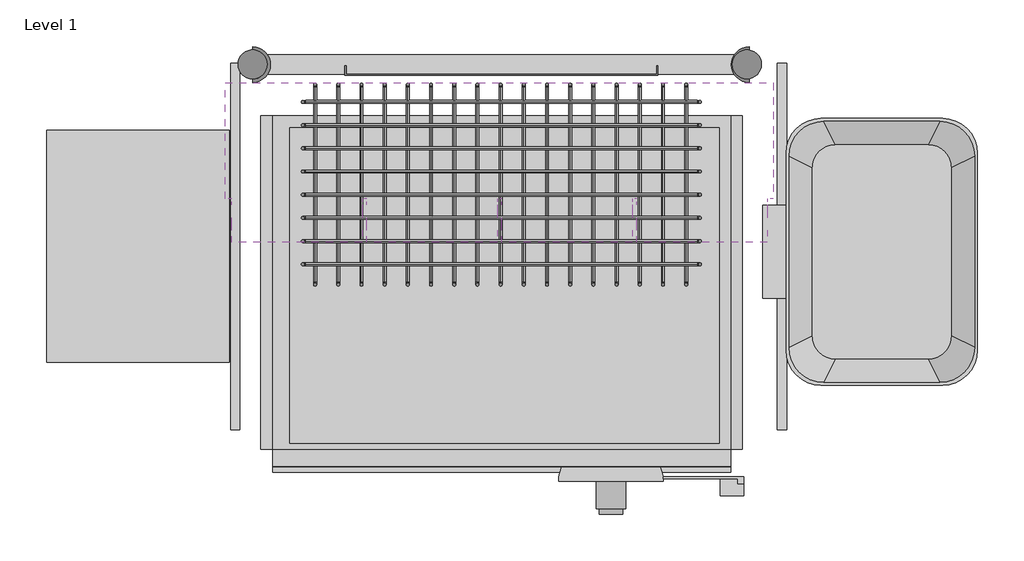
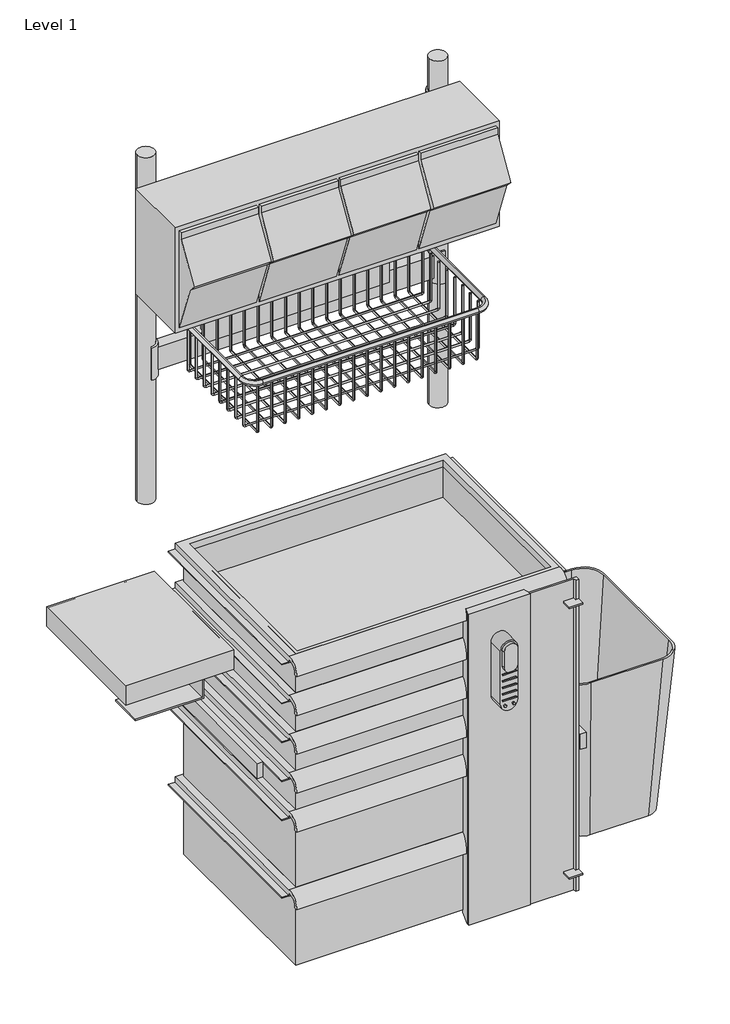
# One storey, incomplete: 15 furniture elements.
"""IFC4 building model written with IfcOpenShell, lengths in millimetres."""

from ifc_helpers import new_model, si_unit, origin, place, context, project, spatial, transform, mapped, element, save
from components import furniture_30494bcf, furniture_4b96bb6f, furniture_5a4074e1, furniture_97bd5955, furniture_3da6129d, furniture_a87b4830, furniture_cac80d98, furniture_5af42f3c, furniture_57f02d6f, furniture_1b205687, furniture_bacf119b, furniture_412fb93b, furniture_ef8da2bd, furniture_4709d153, furniture_0130290e, furniture_7420d28c, furniture_755c3ff9, furniture_5e9628dd

model = new_model("IFC4")

# Units and contexts
model_context = context("Model", 3, world=origin())
ifc_project = project(units=[si_unit("LENGTHUNIT", "METRE", prefix="MILLI")], contexts=[model_context])

# Site, building, storey
site = spatial("IfcSite", under=ifc_project)
building = spatial("IfcBuilding", under=site)
storey = spatial("IfcBuildingStorey", under=building, Name="Level 1", Elevation=0.0)

# Furniture
placement = place(None, origin())
furniture_shape = furniture_30494bcf(model_context)
element("IfcFurniture", 1, ObjectType="HermanMiller_Carts_CT501_Drawer : 3\"H x 15\"D x 20\"W", at=placement, inside=storey, context=model_context, shape_type="MappedRepresentation", body=[
    mapped(furniture_shape, transform((351.7362512, -345.5214727, 0.0), x_axis=(1.0, 0.0, 0.0), y_axis=(0.0, 1.0, 0.0), z_axis=(0.0, 0.0, 1.0))),
])
furniture_2_shape = furniture_4b96bb6f(model_context)
element("IfcFurniture", 2, ObjectType="HermanMiller_Carts_CT501_Drawer : 3\"H x 15\"D x 20\"W", at=placement, inside=storey, context=model_context, shape_type="MappedRepresentation", body=[
    mapped(furniture_2_shape, transform((351.7362512, -345.5214727, 0.0), x_axis=(1.0, 0.0, 0.0), y_axis=(0.0, 1.0, 0.0), z_axis=(0.0, 0.0, 1.0))),
])
furniture_3_shape = furniture_5a4074e1(model_context)
element("IfcFurniture", 3, ObjectType="HermanMiller_Carts_CT501_Drawer : 3\"H x 15\"D x 20\"W", at=placement, inside=storey, context=model_context, shape_type="MappedRepresentation", body=[
    mapped(furniture_3_shape, transform((351.7362512, -345.5214727, 0.0), x_axis=(1.0, 0.0, 0.0), y_axis=(0.0, 1.0, 0.0), z_axis=(0.0, 0.0, 1.0))),
])
furniture_4_shape = furniture_97bd5955(model_context)
element("IfcFurniture", 4, ObjectType="HermanMiller_Carts_CT501_Drawer : 3\"H x 15\"D x 20\"W", at=placement, inside=storey, context=model_context, shape_type="MappedRepresentation", body=[
    mapped(furniture_4_shape, transform((351.7362512, -345.5214727, 0.0), x_axis=(1.0, 0.0, 0.0), y_axis=(0.0, 1.0, 0.0), z_axis=(0.0, 0.0, 1.0))),
])
furniture_5_shape = furniture_3da6129d(model_context)
element("IfcFurniture", 5, ObjectType="HermanMiller_Carts_CT501_Drawer : 6\"H x 15\"D x 20\"W", at=placement, inside=storey, context=model_context, shape_type="MappedRepresentation", body=[
    mapped(furniture_5_shape, transform((351.7362512, -345.5214727, 0.0), x_axis=(1.0, 0.0, 0.0), y_axis=(0.0, 1.0, 0.0), z_axis=(0.0, 0.0, 1.0))),
])
furniture_6_shape = furniture_a87b4830(model_context)
element("IfcFurniture", 6, ObjectType="HermanMiller_Carts_CT501_Drawer : 6\"H x 15\"D x 20\"W", at=placement, inside=storey, context=model_context, shape_type="MappedRepresentation", body=[
    mapped(furniture_6_shape, transform((351.7362512, -345.5214727, 0.0), x_axis=(1.0, 0.0, 0.0), y_axis=(0.0, 1.0, 0.0), z_axis=(0.0, 0.0, 1.0))),
])
furniture_7_shape = furniture_cac80d98(model_context)
furniture_8_shape = furniture_5af42f3c(model_context)
furniture_9_shape = furniture_57f02d6f(model_context)
furniture_10_shape = furniture_1b205687(model_context)
element("IfcFurniture", 7, ObjectType="HermanMiller_Carts_CT720_SupplyBasket : 5\"H x 9\"D x 18\"W Supply Basket", at=placement, inside=storey, context=model_context, shape_type="MappedRepresentation", body=[
    mapped(furniture_7_shape, transform((364.4834911, -184.4641203, 0.0), x_axis=(1.0, 0.0, 0.0), y_axis=(0.0, 1.0, 0.0), z_axis=(0.0, 0.0, 1.0))),
    mapped(furniture_8_shape, transform((364.4834911, -184.4641203, 0.0), x_axis=(1.0, 0.0, 0.0), y_axis=(0.0, 1.0, 0.0), z_axis=(0.0, 0.0, 1.0))),
    mapped(furniture_9_shape, transform((364.4834911, -184.4641203, 0.0), x_axis=(1.0, 0.0, 0.0), y_axis=(0.0, 1.0, 0.0), z_axis=(0.0, 0.0, 1.0))),
    mapped(furniture_10_shape, transform((364.4834911, -184.4641203, 0.0), x_axis=(1.0, 0.0, 0.0), y_axis=(0.0, 1.0, 0.0), z_axis=(0.0, 0.0, 1.0))),
])
furniture_11_shape = furniture_bacf119b(model_context)
element("IfcFurniture", 8, ObjectType="HermanMiller_Carts_CT728_WastebasketAndHolder : 12H x 8D x 11W", at=placement, inside=storey, context=model_context, shape_type="MappedRepresentation", body=[
    mapped(furniture_11_shape, transform((762.3122951, -153.1621927, 0.0), x_axis=(1.0, 0.0, 0.0), y_axis=(0.0, 1.0, 0.0), z_axis=(0.0, 0.0, 1.0))),
])
furniture_12_shape = furniture_412fb93b(model_context)
element("IfcFurniture", 9, ObjectType="HermanMiller_Carts_CT734_SharpsContainerHolder : 9H x 3D", at=placement, inside=storey, context=model_context, shape_type="MappedRepresentation", body=[
    mapped(furniture_12_shape, transform((-33.7439425, -293.1339727, 0.0), x_axis=(1.0, 0.0, 0.0), y_axis=(0.0, 1.0, 0.0), z_axis=(0.0, 0.0, 1.0))),
])
furniture_13_shape = furniture_ef8da2bd(model_context)
element("IfcFurniture", 10, ObjectType="HermanMiller_Carts_CT790_Above-CartRailSingle-WideCart : Rail For Carts 28\"W", at=placement, inside=storey, context=model_context, shape_type="MappedRepresentation", body=[
    mapped(furniture_13_shape, transform((362.5136827, -94.0515509, 0.0), x_axis=(1.0, 0.0, 0.0), y_axis=(0.0, 1.0, 0.0), z_axis=(0.0, 0.0, 1.0))),
])
furniture_14_shape = furniture_4709d153(model_context)
element("IfcFurniture", 11, ObjectType="HermanMiller_Carts_CT790_Above-CartRailSingle-WideCart : Add-On Rail For Carts 28\"W", at=placement, inside=storey, context=model_context, shape_type="MappedRepresentation", body=[
    mapped(furniture_14_shape, transform((363.8763927, -94.3504771, 0.0), x_axis=(1.0, 0.0, 0.0), y_axis=(0.0, 1.0, 0.0), z_axis=(0.0, 0.0, 1.0))),
])
furniture_15_shape = furniture_0130290e(model_context)
element("IfcFurniture", 12, ObjectType="HermanMiller_Carts_CT9303_Tilt-OutStorageBin : 4 Bins", at=placement, inside=storey, context=model_context, shape_type="MappedRepresentation", body=[
    mapped(furniture_15_shape, transform((361.8826517, -177.8, -173.8884), x_axis=(1.0, 0.0, 0.0), y_axis=(0.0, 1.0, 0.0), z_axis=(0.0, 0.0, 1.0))),
])
furniture_16_shape = furniture_7420d28c(model_context)
element("IfcFurniture", 13, ObjectType="HermanMiller_Carts_CT621_LockBar : Basic Keyless Entry 36H Cart Rt Side Lock Key Diff", at=placement, inside=storey, context=model_context, shape_type="MappedRepresentation", body=[
    mapped(furniture_16_shape, transform((725.6562522, -567.7714727, 0.0), x_axis=(1.0, 0.0, 0.0), y_axis=(0.0, 1.0, 0.0), z_axis=(0.0, 0.0, 1.0))),
])
furniture_17_shape = furniture_755c3ff9(model_context)
element("IfcFurniture", 14, ObjectType="HermanMiller_Carts_CT782_AccessoryRailSide : 15\"W Left Sect 3", at=placement, inside=storey, context=model_context, shape_type="MappedRepresentation", body=[
    mapped(furniture_17_shape, transform((72.9741575, -293.3244727, 0.0), x_axis=(1.0, 0.0, 0.0), y_axis=(0.0, 1.0, 0.0), z_axis=(0.0, 0.0, 1.0))),
])
furniture_18_shape = furniture_5e9628dd(model_context)
element("IfcFurniture", 15, ObjectType="HermanMiller_Carts_CT782_AccessoryRailSide : 15\"W Right Sect 2", at=placement, inside=storey, context=model_context, shape_type="MappedRepresentation", body=[
    mapped(furniture_18_shape, transform((671.8007517, -293.3244727, 0.0), x_axis=(1.0, 0.0, 0.0), y_axis=(0.0, 1.0, 0.0), z_axis=(0.0, 0.0, 1.0))),
])

save(model, "model.ifc")
